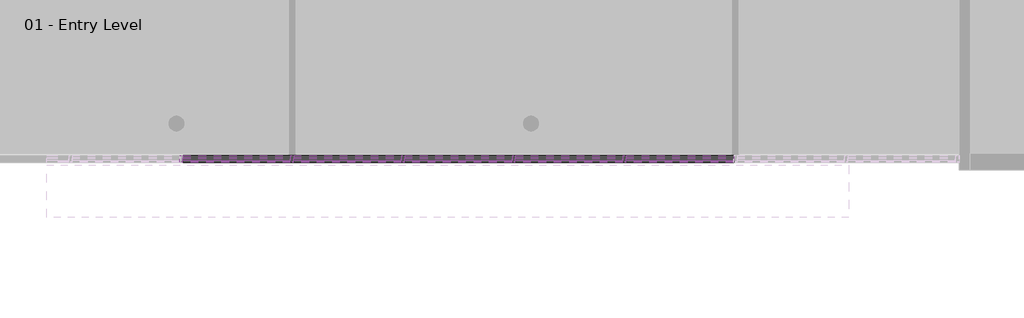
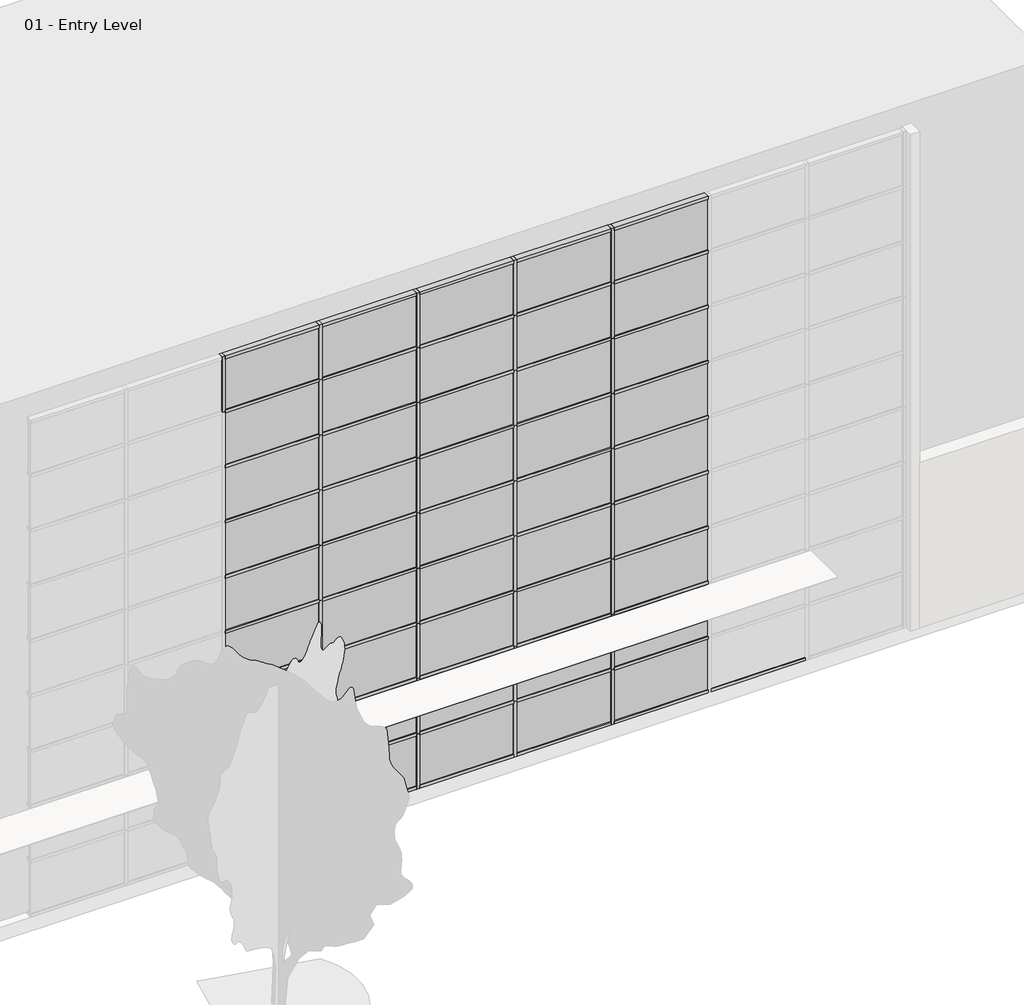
# One storey, part 5 of 34: 87 members, 45 plates.
"""IFC4 building model written with IfcOpenShell, lengths in millimetres."""

import ifcopenshell
import ifcopenshell.guid

model = None  # the IFC model being written
_history = None  # IfcOwnerHistory: only IFC2X3 demands one
_inside = {}  # id of a spatial element -> (the spatial element, [elements in it])
_under = {}  # id of a project, library or spatial element -> (it, [spatial elements below it])
_declared = {}  # id of a project -> (the project, [libraries it declares])
_typed = {}  # id of a type object -> (the type object, [elements of that type])
_made_of = {}  # id of a material, layer set ... -> (it, [elements and type objects made of it])


def new_model(schema):
    """Start an empty IFC model of exactly this schema.

    Asked for "IFC4X3", IfcOpenShell would pick the latest addendum, in which some entities
    have other attributes; the version numbers below select the first issue.
    IFC2X3 requires an IfcOwnerHistory on every rooted entity: one is made here for all.
    """
    global model, _history
    if schema == "IFC4X3":
        model = ifcopenshell.file(schema_version=(4, 3, 0, 0))
    else:
        model = ifcopenshell.file(schema=schema)
    _inside.clear()
    _under.clear()
    _declared.clear()
    _typed.clear()
    _made_of.clear()
    _history = None
    if model.schema == "IFC2X3":
        org = make("IfcOrganization", Name="unknown")
        user = make(
            "IfcPersonAndOrganization",
            ThePerson=make("IfcPerson", FamilyName="unknown"),
            TheOrganization=org,
        )
        app = make(
            "IfcApplication",
            ApplicationDeveloper=org,
            Version="unknown",
            ApplicationFullName="unknown",
            ApplicationIdentifier="unknown",
        )
        _history = make(
            "IfcOwnerHistory",
            OwningUser=user,
            OwningApplication=app,
            ChangeAction="ADDED",
            CreationDate=0,
        )
    return model


def make(cls, **values):
    """One entity of the class cls with the attributes given. An attribute that is None is left unset."""
    return model.create_entity(
        cls, **{name: value for name, value in values.items() if value is not None}
    )


def rooted(cls, **values):
    """An entity with a GlobalId (a new one), such as an element, a storey or a relation."""
    return make(cls, GlobalId=ifcopenshell.guid.new(), OwnerHistory=_history, **values)


def si_unit(unit_type, name, prefix=None):
    """IfcSIUnit, for example si_unit("LENGTHUNIT", "METRE", prefix="MILLI")."""
    return make("IfcSIUnit", UnitType=unit_type, Prefix=prefix, Name=name)


def assignment(units):
    """IfcUnitAssignment: the units of a project."""
    return None if units is None else make("IfcUnitAssignment", Units=units)


def point(xyz):
    """IfcCartesianPoint."""
    return None if xyz is None else make("IfcCartesianPoint", Coordinates=xyz)


def direction(xyz):
    """IfcDirection."""
    return None if xyz is None else make("IfcDirection", DirectionRatios=xyz)


def frame(location, z_axis=None, x_axis=None):
    """IfcAxis2Placement3D, a coordinate frame: its origin and axes. An axis left out is left unset."""
    return make(
        "IfcAxis2Placement3D",
        Location=point(location),
        Axis=direction(z_axis),
        RefDirection=direction(x_axis),
    )


def origin():
    """The frame at (0, 0, 0) with its axes left unset."""
    return frame((0.0, 0.0, 0.0))


def origin_with_axes():
    """The frame at (0, 0, 0) with the z axis (0, 0, 1) and the x axis (1, 0, 0) written out."""
    return frame((0.0, 0.0, 0.0), z_axis=(0.0, 0.0, 1.0), x_axis=(1.0, 0.0, 0.0))


def place(relative_to, where):
    """IfcLocalPlacement: puts the frame where relative to a parent placement (None: the world)."""
    return make(
        "IfcLocalPlacement", PlacementRelTo=relative_to, RelativePlacement=where
    )


def context(
    kind, dimensions, precision=None, world=None, true_north=None, identifier=None
):
    """IfcGeometricRepresentationContext, for example the 3D "Model" context."""
    return make(
        "IfcGeometricRepresentationContext",
        ContextIdentifier=identifier,
        ContextType=kind,
        CoordinateSpaceDimension=dimensions,
        Precision=precision,
        WorldCoordinateSystem=world,
        TrueNorth=true_north,
    )


def project(units=None, contexts=None):
    """IfcProject with its units and contexts."""
    return rooted(
        "IfcProject",
        Name="project",
        RepresentationContexts=contexts,
        UnitsInContext=assignment(units),
    )


def spatial(cls, under=None, at=None, **own):
    """A site, building, storey or space (cls), placed at a placement, below another one or the project."""
    s = rooted(cls, ObjectPlacement=at, **own)
    if under is not None:
        _under.setdefault(under.id(), (under, []))[1].append(s)
    return s


def polyline(points):
    """IfcPolyline through the points."""
    return make("IfcPolyline", Points=[point(p) for p in points])


def outline(outer, holes=None, kind="AREA"):
    """IfcArbitraryClosedProfileDef: a profile drawn as a closed curve; with holes, ...WithVoids."""
    if holes is None:
        return make("IfcArbitraryClosedProfileDef", ProfileType=kind, OuterCurve=outer)
    return make(
        "IfcArbitraryProfileDefWithVoids",
        ProfileType=kind,
        OuterCurve=outer,
        InnerCurves=holes,
    )


def extrude(swept, where, along, depth):
    """IfcExtrudedAreaSolid: the profile swept, set in the frame where, extruded along a direction by depth."""
    return make(
        "IfcExtrudedAreaSolid",
        SweptArea=swept,
        Position=where,
        ExtrudedDirection=direction(along),
        Depth=depth,
    )


def shape(context_of_items, identifier, shape_type, items):
    """IfcShapeRepresentation: the items that make up one representation, for example the "Body"."""
    return make(
        "IfcShapeRepresentation",
        ContextOfItems=context_of_items,
        RepresentationIdentifier=identifier,
        RepresentationType=shape_type,
        Items=items,
    )


def source(mapping_origin, context_of_items, identifier, shape_type, items):
    """IfcRepresentationMap: a shape defined once, which mapped items show again and again."""
    return make(
        "IfcRepresentationMap",
        MappingOrigin=mapping_origin,
        MappedRepresentation=shape(context_of_items, identifier, shape_type, items),
    )


def transform(
    local_origin,
    x_axis=None,
    y_axis=None,
    z_axis=None,
    scale=None,
    scale2=None,
    scale3=None,
    uniform=True,
):
    """IfcCartesianTransformationOperator3D, or its non-uniform kind. x_axis, y_axis, z_axis: its Axis1, 2, 3."""
    if uniform:
        return make(
            "IfcCartesianTransformationOperator3D",
            Axis1=direction(x_axis),
            Axis2=direction(y_axis),
            LocalOrigin=point(local_origin),
            Scale=scale,
            Axis3=direction(z_axis),
        )
    return make(
        "IfcCartesianTransformationOperator3DnonUniform",
        Axis1=direction(x_axis),
        Axis2=direction(y_axis),
        LocalOrigin=point(local_origin),
        Scale=scale,
        Axis3=direction(z_axis),
        Scale2=scale2,
        Scale3=scale3,
    )


def mapped(mapping_source, mapping_target):
    """IfcMappedItem: shows the shape of a source again, moved by a transform."""
    return make(
        "IfcMappedItem", MappingSource=mapping_source, MappingTarget=mapping_target
    )


def made_of(thing, what):
    """Note that an element or type object is made of a material, layer set ...; save() writes the relation."""
    if what is not None:
        _made_of.setdefault(what.id(), (what, []))[1].append(thing)
    return thing


def element(
    cls,
    number,
    at=None,
    inside=None,
    cuts=None,
    type_object=None,
    material=None,
    context=None,
    identifier="Body",
    shape_type=None,
    held_by="IfcProductDefinitionShape",
    body=None,
    shapes=None,
    **own,
):
    """One element of the class cls, such as IfcWall. Its Tag is "e" and its number.

    at: its placement. inside: the storey or other place that contains it. cuts: it is an
    opening in that element (IfcRelVoidsElement). A single representation is given by context,
    identifier, shape_type and body (its items); several are given by shapes. held_by: the class
    of the entity that holds the representations. save() writes the other relations.
    """
    e = rooted(cls, Tag="e%d" % number, ObjectPlacement=at, **own)
    if body is not None:
        shapes = [shape(context, identifier, shape_type, body)]
    if shapes is not None:
        e.Representation = make(held_by, Representations=shapes)
    if inside is not None:
        _inside.setdefault(inside.id(), (inside, []))[1].append(e)
    if cuts is not None:
        rooted(
            "IfcRelVoidsElement", RelatingBuildingElement=cuts, RelatedOpeningElement=e
        )
    if type_object is not None:
        _typed.setdefault(type_object.id(), (type_object, []))[1].append(e)
    return made_of(e, material)


def aggregate(whole, parts):
    """IfcRelAggregates: a whole, such as a stair, and the parts it consists of."""
    return rooted("IfcRelAggregates", RelatingObject=whole, RelatedObjects=parts)


def save(model, path):
    """Write the relations noted so far, then the file.

    IfcRelAggregates (storeys below a building ...), IfcRelContainedInSpatialStructure (elements
    in a storey), IfcRelDefinesByType, IfcRelAssociatesMaterial and IfcRelDeclares: one each for
    every whole, place, type object, material and project.
    """
    for whole, parts in _under.values():
        aggregate(whole, parts)
    for where, things in _inside.values():
        rooted(
            "IfcRelContainedInSpatialStructure",
            RelatedElements=things,
            RelatingStructure=where,
        )
    for kind, things in _typed.values():
        rooted("IfcRelDefinesByType", RelatedObjects=things, RelatingType=kind)
    for what, things in _made_of.values():
        rooted("IfcRelAssociatesMaterial", RelatedObjects=things, RelatingMaterial=what)
    for by, libraries in _declared.values():
        rooted("IfcRelDeclares", RelatingContext=by, RelatedDefinitions=libraries)
    model.write(path)


def member_2b49869a(model_context):
    return source(origin(), model_context, "Body", "SweptSolid", [
        extrude(outline(polyline([(31.75, 63.5), (31.75, -63.5), (-31.75, -63.5), (-31.75, 63.5), (31.75, 63.5)])), frame((0.0, 0.0, -1219.2), z_axis=(0.0, 0.0, 1.0), x_axis=(1.0, 0.0, 0.0)), (0.0, 0.0, 1.0), 1219.2),
    ])


def member_391b434c(model_context):
    return source(origin(), model_context, "Body", "SweptSolid", [
        extrude(outline(polyline([(0.0, 63.5), (0.0, -63.5), (-63.5, -63.5), (-63.5, 63.5), (0.0, 63.5)])), frame((0.0, 0.0, -1968.5), z_axis=(0.0, 0.0, 1.0), x_axis=(1.0, 0.0, 0.0)), (0.0, 0.0, 1.0), 1968.5),
    ])


def member_9e90ae50(model_context):
    return source(origin(), model_context, "Body", "SweptSolid", [
        extrude(outline(polyline([(31.75, 63.5), (31.75, -63.5), (-31.75, -63.5), (-31.75, 63.5), (31.75, 63.5)])), frame((0.0, 0.0, -1968.5), z_axis=(0.0, 0.0, 1.0), x_axis=(1.0, 0.0, 0.0)), (0.0, 0.0, 1.0), 1968.5),
    ])


def system_panel_glazed_1b9d6098(model_context):
    return source(origin(), model_context, "Body", "SweptSolid", [
        extrude(outline(polyline([(984.25, -44.45), (-984.25, -44.45), (-984.25, -19.05), (984.25, -19.05), (984.25, -44.45)])), origin_with_axes(), (0.0, 0.0, 1.0), 1123.95),
    ])


def system_panel_glazed_70da479d(model_context):
    return source(origin(), model_context, "Body", "SweptSolid", [
        extrude(outline(polyline([(984.25, -44.45), (-984.25, -44.45), (-984.25, -19.05), (984.25, -19.05), (984.25, -44.45)])), origin_with_axes(), (0.0, 0.0, 1.0), 1155.7),
    ])


def system_panel_solid_b376696c(model_context):
    return source(origin(), model_context, "Body", "SweptSolid", [
        extrude(outline(polyline([(984.25, -44.45), (-984.25, -44.45), (-984.25, 19.05), (984.25, 19.05), (984.25, -44.45)])), origin_with_axes(), (0.0, 0.0, 1.0), 1123.95),
    ])


def system_panel_solid_77e8b053(model_context):
    return source(origin(), model_context, "Body", "SweptSolid", [
        extrude(outline(polyline([(984.25, -44.45), (-984.25, -44.45), (-984.25, 19.05), (984.25, 19.05), (984.25, -44.45)])), origin_with_axes(), (0.0, 0.0, 1.0), 1155.7),
    ])


model = new_model("IFC4")

# Units and contexts
model_context = context("Model", 3, world=origin())
ifc_project = project(units=[si_unit("LENGTHUNIT", "METRE", prefix="MILLI")], contexts=[model_context])

# Site, building, storey
site = spatial("IfcSite", under=ifc_project)
building = spatial("IfcBuilding", under=site)
storey = spatial("IfcBuildingStorey", under=building, Name="01 - Entry Level", Elevation=0.0)

# Members
placement = place(None, origin())
member_shape = member_2b49869a(model_context)
element("IfcMember", 1, ObjectType="Rectangular Mullion : 2.5\" x 5\" rectangular", at=placement, inside=storey, context=model_context, shape_type="MappedRepresentation", body=[
    mapped(member_shape, transform((48883.2207476, -47.7, 9753.6), x_axis=(1.0, 0.0, 0.0), y_axis=(0.0, -1.0, 0.0), z_axis=(0.0, 0.0, -1.0))),
])
element("IfcMember", 2, ObjectType="Rectangular Mullion : 2.5\" x 5\" rectangular", at=placement, inside=storey, context=model_context, shape_type="MappedRepresentation", body=[
    mapped(member_shape, transform((50915.2207476, -47.7, 9753.6), x_axis=(1.0, 0.0, 0.0), y_axis=(0.0, -1.0, 0.0), z_axis=(0.0, 0.0, -1.0))),
])
element("IfcMember", 3, ObjectType="Rectangular Mullion : 2.5\" x 5\" rectangular", at=placement, inside=storey, context=model_context, shape_type="MappedRepresentation", body=[
    mapped(member_shape, transform((52947.2207476, -47.7, 9753.6), x_axis=(1.0, 0.0, 0.0), y_axis=(0.0, -1.0, 0.0), z_axis=(0.0, 0.0, -1.0))),
])
element("IfcMember", 4, ObjectType="Rectangular Mullion : 2.5\" x 5\" rectangular", at=placement, inside=storey, context=model_context, shape_type="MappedRepresentation", body=[
    mapped(member_shape, transform((54979.2207476, -47.7, 9753.6), x_axis=(1.0, 0.0, 0.0), y_axis=(0.0, -1.0, 0.0), z_axis=(0.0, 0.0, -1.0))),
])
element("IfcMember", 5, ObjectType="Rectangular Mullion : 2.5\" x 5\" rectangular", at=placement, inside=storey, context=model_context, shape_type="MappedRepresentation", body=[
    mapped(member_shape, transform((57011.2207476, -47.7, 9753.6), x_axis=(1.0, 0.0, 0.0), y_axis=(0.0, -1.0, 0.0), z_axis=(0.0, 0.0, -1.0))),
])
member_2_shape = member_391b434c(model_context)
element("IfcMember", 6, ObjectType="Rectangular Mullion : 2.5\" x 5\" rectangular", at=placement, inside=storey, context=model_context, shape_type="MappedRepresentation", body=[
    mapped(member_2_shape, transform((50883.4707476, -47.7, 10972.8), x_axis=(0.0, 0.0, 1.0), y_axis=(0.0, -1.0, 0.0), z_axis=(1.0, 0.0, 0.0))),
])
element("IfcMember", 7, ObjectType="Rectangular Mullion : 2.5\" x 5\" rectangular", at=placement, inside=storey, context=model_context, shape_type="MappedRepresentation", body=[
    mapped(member_2_shape, transform((52915.4707476, -47.7, 10972.8), x_axis=(0.0, 0.0, 1.0), y_axis=(0.0, -1.0, 0.0), z_axis=(1.0, 0.0, 0.0))),
])
element("IfcMember", 8, ObjectType="Rectangular Mullion : 2.5\" x 5\" rectangular", at=placement, inside=storey, context=model_context, shape_type="MappedRepresentation", body=[
    mapped(member_2_shape, transform((54947.4707476, -47.7, 10972.8), x_axis=(0.0, 0.0, 1.0), y_axis=(0.0, -1.0, 0.0), z_axis=(1.0, 0.0, 0.0))),
])
element("IfcMember", 9, ObjectType="Rectangular Mullion : 2.5\" x 5\" rectangular", at=placement, inside=storey, context=model_context, shape_type="MappedRepresentation", body=[
    mapped(member_2_shape, transform((56979.4707476, -47.7, 10972.8), x_axis=(0.0, 0.0, 1.0), y_axis=(0.0, -1.0, 0.0), z_axis=(1.0, 0.0, 0.0))),
])
element("IfcMember", 10, ObjectType="Rectangular Mullion : 2.5\" x 5\" rectangular", at=placement, inside=storey, context=model_context, shape_type="MappedRepresentation", body=[
    mapped(member_2_shape, transform((59011.4707476, -47.7, 10972.8), x_axis=(0.0, 0.0, 1.0), y_axis=(0.0, -1.0, 0.0), z_axis=(1.0, 0.0, 0.0))),
])
element("IfcMember", 11, ObjectType="Rectangular Mullion : 2.5\" x 5\" rectangular", at=placement, inside=storey, context=model_context, shape_type="MappedRepresentation", body=[
    mapped(member_2_shape, transform((50946.9707476, -47.7, 0.0), x_axis=(0.0, 0.0, -1.0), y_axis=(0.0, -1.0, 0.0), z_axis=(-1.0, 0.0, 0.0))),
])
element("IfcMember", 12, ObjectType="Rectangular Mullion : 2.5\" x 5\" rectangular", at=placement, inside=storey, context=model_context, shape_type="MappedRepresentation", body=[
    mapped(member_2_shape, transform((52978.9707476, -47.7, 0.0), x_axis=(0.0, 0.0, -1.0), y_axis=(0.0, -1.0, 0.0), z_axis=(-1.0, 0.0, 0.0))),
])
element("IfcMember", 13, ObjectType="Rectangular Mullion : 2.5\" x 5\" rectangular", at=placement, inside=storey, context=model_context, shape_type="MappedRepresentation", body=[
    mapped(member_2_shape, transform((55010.9707476, -47.7, 0.0), x_axis=(0.0, 0.0, -1.0), y_axis=(0.0, -1.0, 0.0), z_axis=(-1.0, 0.0, 0.0))),
])
element("IfcMember", 14, ObjectType="Rectangular Mullion : 2.5\" x 5\" rectangular", at=placement, inside=storey, context=model_context, shape_type="MappedRepresentation", body=[
    mapped(member_2_shape, transform((57042.9707476, -47.7, 0.0), x_axis=(0.0, 0.0, -1.0), y_axis=(0.0, -1.0, 0.0), z_axis=(-1.0, 0.0, 0.0))),
])
element("IfcMember", 15, ObjectType="Rectangular Mullion : 2.5\" x 5\" rectangular", at=placement, inside=storey, context=model_context, shape_type="MappedRepresentation", body=[
    mapped(member_2_shape, transform((59074.9707476, -47.7, 0.0), x_axis=(0.0, 0.0, -1.0), y_axis=(0.0, -1.0, 0.0), z_axis=(-1.0, 0.0, 0.0))),
])
member_3_shape = member_9e90ae50(model_context)
element("IfcMember", 16, ObjectType="Rectangular Mullion : 2.5\" x 5\" rectangular", at=placement, inside=storey, context=model_context, shape_type="MappedRepresentation", body=[
    mapped(member_3_shape, transform((50883.4707476, -47.7, 1219.2), x_axis=(0.0, 0.0, 1.0), y_axis=(0.0, -1.0, 0.0), z_axis=(1.0, 0.0, 0.0))),
])
element("IfcMember", 17, ObjectType="Rectangular Mullion : 2.5\" x 5\" rectangular", at=placement, inside=storey, context=model_context, shape_type="MappedRepresentation", body=[
    mapped(member_3_shape, transform((52915.4707476, -47.7, 1219.2), x_axis=(0.0, 0.0, 1.0), y_axis=(0.0, -1.0, 0.0), z_axis=(1.0, 0.0, 0.0))),
])
element("IfcMember", 18, ObjectType="Rectangular Mullion : 2.5\" x 5\" rectangular", at=placement, inside=storey, context=model_context, shape_type="MappedRepresentation", body=[
    mapped(member_3_shape, transform((54947.4707476, -47.7, 1219.2), x_axis=(0.0, 0.0, 1.0), y_axis=(0.0, -1.0, 0.0), z_axis=(1.0, 0.0, 0.0))),
])
element("IfcMember", 19, ObjectType="Rectangular Mullion : 2.5\" x 5\" rectangular", at=placement, inside=storey, context=model_context, shape_type="MappedRepresentation", body=[
    mapped(member_3_shape, transform((56979.4707476, -47.7, 1219.2), x_axis=(0.0, 0.0, 1.0), y_axis=(0.0, -1.0, 0.0), z_axis=(1.0, 0.0, 0.0))),
])
element("IfcMember", 20, ObjectType="Rectangular Mullion : 2.5\" x 5\" rectangular", at=placement, inside=storey, context=model_context, shape_type="MappedRepresentation", body=[
    mapped(member_3_shape, transform((59011.4707476, -47.7, 1219.2), x_axis=(0.0, 0.0, 1.0), y_axis=(0.0, -1.0, 0.0), z_axis=(1.0, 0.0, 0.0))),
])
element("IfcMember", 21, ObjectType="Rectangular Mullion : 2.5\" x 5\" rectangular", at=placement, inside=storey, context=model_context, shape_type="MappedRepresentation", body=[
    mapped(member_3_shape, transform((50883.4707476, -47.7, 2438.4), x_axis=(0.0, 0.0, 1.0), y_axis=(0.0, -1.0, 0.0), z_axis=(1.0, 0.0, 0.0))),
])
element("IfcMember", 22, ObjectType="Rectangular Mullion : 2.5\" x 5\" rectangular", at=placement, inside=storey, context=model_context, shape_type="MappedRepresentation", body=[
    mapped(member_3_shape, transform((52915.4707476, -47.7, 2438.4), x_axis=(0.0, 0.0, 1.0), y_axis=(0.0, -1.0, 0.0), z_axis=(1.0, 0.0, 0.0))),
])
element("IfcMember", 23, ObjectType="Rectangular Mullion : 2.5\" x 5\" rectangular", at=placement, inside=storey, context=model_context, shape_type="MappedRepresentation", body=[
    mapped(member_3_shape, transform((54947.4707476, -47.7, 2438.4), x_axis=(0.0, 0.0, 1.0), y_axis=(0.0, -1.0, 0.0), z_axis=(1.0, 0.0, 0.0))),
])
element("IfcMember", 24, ObjectType="Rectangular Mullion : 2.5\" x 5\" rectangular", at=placement, inside=storey, context=model_context, shape_type="MappedRepresentation", body=[
    mapped(member_3_shape, transform((56979.4707476, -47.7, 2438.4), x_axis=(0.0, 0.0, 1.0), y_axis=(0.0, -1.0, 0.0), z_axis=(1.0, 0.0, 0.0))),
])
element("IfcMember", 25, ObjectType="Rectangular Mullion : 2.5\" x 5\" rectangular", at=placement, inside=storey, context=model_context, shape_type="MappedRepresentation", body=[
    mapped(member_3_shape, transform((59011.4707476, -47.7, 2438.4), x_axis=(0.0, 0.0, 1.0), y_axis=(0.0, -1.0, 0.0), z_axis=(1.0, 0.0, 0.0))),
])
element("IfcMember", 26, ObjectType="Rectangular Mullion : 2.5\" x 5\" rectangular", at=placement, inside=storey, context=model_context, shape_type="MappedRepresentation", body=[
    mapped(member_3_shape, transform((50883.4707476, -47.7, 3657.6), x_axis=(0.0, 0.0, 1.0), y_axis=(0.0, -1.0, 0.0), z_axis=(1.0, 0.0, 0.0))),
])
element("IfcMember", 27, ObjectType="Rectangular Mullion : 2.5\" x 5\" rectangular", at=placement, inside=storey, context=model_context, shape_type="MappedRepresentation", body=[
    mapped(member_3_shape, transform((52915.4707476, -47.7, 3657.6), x_axis=(0.0, 0.0, 1.0), y_axis=(0.0, -1.0, 0.0), z_axis=(1.0, 0.0, 0.0))),
])
element("IfcMember", 28, ObjectType="Rectangular Mullion : 2.5\" x 5\" rectangular", at=placement, inside=storey, context=model_context, shape_type="MappedRepresentation", body=[
    mapped(member_3_shape, transform((54947.4707476, -47.7, 3657.6), x_axis=(0.0, 0.0, 1.0), y_axis=(0.0, -1.0, 0.0), z_axis=(1.0, 0.0, 0.0))),
])
element("IfcMember", 29, ObjectType="Rectangular Mullion : 2.5\" x 5\" rectangular", at=placement, inside=storey, context=model_context, shape_type="MappedRepresentation", body=[
    mapped(member_3_shape, transform((56979.4707476, -47.7, 3657.6), x_axis=(0.0, 0.0, 1.0), y_axis=(0.0, -1.0, 0.0), z_axis=(1.0, 0.0, 0.0))),
])
element("IfcMember", 30, ObjectType="Rectangular Mullion : 2.5\" x 5\" rectangular", at=placement, inside=storey, context=model_context, shape_type="MappedRepresentation", body=[
    mapped(member_3_shape, transform((59011.4707476, -47.7, 3657.6), x_axis=(0.0, 0.0, 1.0), y_axis=(0.0, -1.0, 0.0), z_axis=(1.0, 0.0, 0.0))),
])
element("IfcMember", 31, ObjectType="Rectangular Mullion : 2.5\" x 5\" rectangular", at=placement, inside=storey, context=model_context, shape_type="MappedRepresentation", body=[
    mapped(member_3_shape, transform((50883.4707476, -47.7, 4876.8), x_axis=(0.0, 0.0, 1.0), y_axis=(0.0, -1.0, 0.0), z_axis=(1.0, 0.0, 0.0))),
])
element("IfcMember", 32, ObjectType="Rectangular Mullion : 2.5\" x 5\" rectangular", at=placement, inside=storey, context=model_context, shape_type="MappedRepresentation", body=[
    mapped(member_3_shape, transform((52915.4707476, -47.7, 4876.8), x_axis=(0.0, 0.0, 1.0), y_axis=(0.0, -1.0, 0.0), z_axis=(1.0, 0.0, 0.0))),
])
element("IfcMember", 33, ObjectType="Rectangular Mullion : 2.5\" x 5\" rectangular", at=placement, inside=storey, context=model_context, shape_type="MappedRepresentation", body=[
    mapped(member_3_shape, transform((54947.4707476, -47.7, 4876.8), x_axis=(0.0, 0.0, 1.0), y_axis=(0.0, -1.0, 0.0), z_axis=(1.0, 0.0, 0.0))),
])
element("IfcMember", 34, ObjectType="Rectangular Mullion : 2.5\" x 5\" rectangular", at=placement, inside=storey, context=model_context, shape_type="MappedRepresentation", body=[
    mapped(member_3_shape, transform((56979.4707476, -47.7, 4876.8), x_axis=(0.0, 0.0, 1.0), y_axis=(0.0, -1.0, 0.0), z_axis=(1.0, 0.0, 0.0))),
])
element("IfcMember", 35, ObjectType="Rectangular Mullion : 2.5\" x 5\" rectangular", at=placement, inside=storey, context=model_context, shape_type="MappedRepresentation", body=[
    mapped(member_3_shape, transform((59011.4707476, -47.7, 4876.8), x_axis=(0.0, 0.0, 1.0), y_axis=(0.0, -1.0, 0.0), z_axis=(1.0, 0.0, 0.0))),
])
element("IfcMember", 36, ObjectType="Rectangular Mullion : 2.5\" x 5\" rectangular", at=placement, inside=storey, context=model_context, shape_type="MappedRepresentation", body=[
    mapped(member_3_shape, transform((50883.4707476, -47.7, 6096.0), x_axis=(0.0, 0.0, 1.0), y_axis=(0.0, -1.0, 0.0), z_axis=(1.0, 0.0, 0.0))),
])
element("IfcMember", 37, ObjectType="Rectangular Mullion : 2.5\" x 5\" rectangular", at=placement, inside=storey, context=model_context, shape_type="MappedRepresentation", body=[
    mapped(member_3_shape, transform((52915.4707476, -47.7, 6096.0), x_axis=(0.0, 0.0, 1.0), y_axis=(0.0, -1.0, 0.0), z_axis=(1.0, 0.0, 0.0))),
])
element("IfcMember", 38, ObjectType="Rectangular Mullion : 2.5\" x 5\" rectangular", at=placement, inside=storey, context=model_context, shape_type="MappedRepresentation", body=[
    mapped(member_3_shape, transform((54947.4707476, -47.7, 6096.0), x_axis=(0.0, 0.0, 1.0), y_axis=(0.0, -1.0, 0.0), z_axis=(1.0, 0.0, 0.0))),
])
element("IfcMember", 39, ObjectType="Rectangular Mullion : 2.5\" x 5\" rectangular", at=placement, inside=storey, context=model_context, shape_type="MappedRepresentation", body=[
    mapped(member_3_shape, transform((56979.4707476, -47.7, 6096.0), x_axis=(0.0, 0.0, 1.0), y_axis=(0.0, -1.0, 0.0), z_axis=(1.0, 0.0, 0.0))),
])
element("IfcMember", 40, ObjectType="Rectangular Mullion : 2.5\" x 5\" rectangular", at=placement, inside=storey, context=model_context, shape_type="MappedRepresentation", body=[
    mapped(member_3_shape, transform((59011.4707476, -47.7, 6096.0), x_axis=(0.0, 0.0, 1.0), y_axis=(0.0, -1.0, 0.0), z_axis=(1.0, 0.0, 0.0))),
])
element("IfcMember", 41, ObjectType="Rectangular Mullion : 2.5\" x 5\" rectangular", at=placement, inside=storey, context=model_context, shape_type="MappedRepresentation", body=[
    mapped(member_3_shape, transform((50883.4707476, -47.7, 7315.2), x_axis=(0.0, 0.0, 1.0), y_axis=(0.0, -1.0, 0.0), z_axis=(1.0, 0.0, 0.0))),
])
element("IfcMember", 42, ObjectType="Rectangular Mullion : 2.5\" x 5\" rectangular", at=placement, inside=storey, context=model_context, shape_type="MappedRepresentation", body=[
    mapped(member_3_shape, transform((52915.4707476, -47.7, 7315.2), x_axis=(0.0, 0.0, 1.0), y_axis=(0.0, -1.0, 0.0), z_axis=(1.0, 0.0, 0.0))),
])
element("IfcMember", 43, ObjectType="Rectangular Mullion : 2.5\" x 5\" rectangular", at=placement, inside=storey, context=model_context, shape_type="MappedRepresentation", body=[
    mapped(member_3_shape, transform((54947.4707476, -47.7, 7315.2), x_axis=(0.0, 0.0, 1.0), y_axis=(0.0, -1.0, 0.0), z_axis=(1.0, 0.0, 0.0))),
])
element("IfcMember", 44, ObjectType="Rectangular Mullion : 2.5\" x 5\" rectangular", at=placement, inside=storey, context=model_context, shape_type="MappedRepresentation", body=[
    mapped(member_3_shape, transform((56979.4707476, -47.7, 7315.2), x_axis=(0.0, 0.0, 1.0), y_axis=(0.0, -1.0, 0.0), z_axis=(1.0, 0.0, 0.0))),
])
element("IfcMember", 45, ObjectType="Rectangular Mullion : 2.5\" x 5\" rectangular", at=placement, inside=storey, context=model_context, shape_type="MappedRepresentation", body=[
    mapped(member_3_shape, transform((59011.4707476, -47.7, 7315.2), x_axis=(0.0, 0.0, 1.0), y_axis=(0.0, -1.0, 0.0), z_axis=(1.0, 0.0, 0.0))),
])
element("IfcMember", 46, ObjectType="Rectangular Mullion : 2.5\" x 5\" rectangular", at=placement, inside=storey, context=model_context, shape_type="MappedRepresentation", body=[
    mapped(member_3_shape, transform((50883.4707476, -47.7, 8534.4), x_axis=(0.0, 0.0, 1.0), y_axis=(0.0, -1.0, 0.0), z_axis=(1.0, 0.0, 0.0))),
])
element("IfcMember", 47, ObjectType="Rectangular Mullion : 2.5\" x 5\" rectangular", at=placement, inside=storey, context=model_context, shape_type="MappedRepresentation", body=[
    mapped(member_3_shape, transform((52915.4707476, -47.7, 8534.4), x_axis=(0.0, 0.0, 1.0), y_axis=(0.0, -1.0, 0.0), z_axis=(1.0, 0.0, 0.0))),
])
element("IfcMember", 48, ObjectType="Rectangular Mullion : 2.5\" x 5\" rectangular", at=placement, inside=storey, context=model_context, shape_type="MappedRepresentation", body=[
    mapped(member_3_shape, transform((54947.4707476, -47.7, 8534.4), x_axis=(0.0, 0.0, 1.0), y_axis=(0.0, -1.0, 0.0), z_axis=(1.0, 0.0, 0.0))),
])
element("IfcMember", 49, ObjectType="Rectangular Mullion : 2.5\" x 5\" rectangular", at=placement, inside=storey, context=model_context, shape_type="MappedRepresentation", body=[
    mapped(member_3_shape, transform((56979.4707476, -47.7, 8534.4), x_axis=(0.0, 0.0, 1.0), y_axis=(0.0, -1.0, 0.0), z_axis=(1.0, 0.0, 0.0))),
])
element("IfcMember", 50, ObjectType="Rectangular Mullion : 2.5\" x 5\" rectangular", at=placement, inside=storey, context=model_context, shape_type="MappedRepresentation", body=[
    mapped(member_3_shape, transform((59011.4707476, -47.7, 8534.4), x_axis=(0.0, 0.0, 1.0), y_axis=(0.0, -1.0, 0.0), z_axis=(1.0, 0.0, 0.0))),
])
element("IfcMember", 51, ObjectType="Rectangular Mullion : 2.5\" x 5\" rectangular", at=placement, inside=storey, context=model_context, shape_type="MappedRepresentation", body=[
    mapped(member_3_shape, transform((50883.4707476, -47.7, 9753.6), x_axis=(0.0, 0.0, 1.0), y_axis=(0.0, -1.0, 0.0), z_axis=(1.0, 0.0, 0.0))),
])
element("IfcMember", 52, ObjectType="Rectangular Mullion : 2.5\" x 5\" rectangular", at=placement, inside=storey, context=model_context, shape_type="MappedRepresentation", body=[
    mapped(member_3_shape, transform((52915.4707476, -47.7, 9753.6), x_axis=(0.0, 0.0, 1.0), y_axis=(0.0, -1.0, 0.0), z_axis=(1.0, 0.0, 0.0))),
])
element("IfcMember", 53, ObjectType="Rectangular Mullion : 2.5\" x 5\" rectangular", at=placement, inside=storey, context=model_context, shape_type="MappedRepresentation", body=[
    mapped(member_3_shape, transform((54947.4707476, -47.7, 9753.6), x_axis=(0.0, 0.0, 1.0), y_axis=(0.0, -1.0, 0.0), z_axis=(1.0, 0.0, 0.0))),
])
element("IfcMember", 54, ObjectType="Rectangular Mullion : 2.5\" x 5\" rectangular", at=placement, inside=storey, context=model_context, shape_type="MappedRepresentation", body=[
    mapped(member_3_shape, transform((56979.4707476, -47.7, 9753.6), x_axis=(0.0, 0.0, 1.0), y_axis=(0.0, -1.0, 0.0), z_axis=(1.0, 0.0, 0.0))),
])
element("IfcMember", 55, ObjectType="Rectangular Mullion : 2.5\" x 5\" rectangular", at=placement, inside=storey, context=model_context, shape_type="MappedRepresentation", body=[
    mapped(member_3_shape, transform((59011.4707476, -47.7, 9753.6), x_axis=(0.0, 0.0, 1.0), y_axis=(0.0, -1.0, 0.0), z_axis=(1.0, 0.0, 0.0))),
])
element("IfcMember", 56, ObjectType="Rectangular Mullion : 2.5\" x 5\" rectangular", at=placement, inside=storey, context=model_context, shape_type="MappedRepresentation", body=[
    mapped(member_shape, transform((50915.2207476, -47.7, 0.0), x_axis=(1.0, 0.0, 0.0), y_axis=(0.0, -1.0, 0.0), z_axis=(0.0, 0.0, -1.0))),
])
element("IfcMember", 57, ObjectType="Rectangular Mullion : 2.5\" x 5\" rectangular", at=placement, inside=storey, context=model_context, shape_type="MappedRepresentation", body=[
    mapped(member_shape, transform((52947.2207476, -47.7, 0.0), x_axis=(1.0, 0.0, 0.0), y_axis=(0.0, -1.0, 0.0), z_axis=(0.0, 0.0, -1.0))),
])
element("IfcMember", 58, ObjectType="Rectangular Mullion : 2.5\" x 5\" rectangular", at=placement, inside=storey, context=model_context, shape_type="MappedRepresentation", body=[
    mapped(member_shape, transform((54979.2207476, -47.7, 0.0), x_axis=(1.0, 0.0, 0.0), y_axis=(0.0, -1.0, 0.0), z_axis=(0.0, 0.0, -1.0))),
])
element("IfcMember", 59, ObjectType="Rectangular Mullion : 2.5\" x 5\" rectangular", at=placement, inside=storey, context=model_context, shape_type="MappedRepresentation", body=[
    mapped(member_shape, transform((57011.2207476, -47.7, 0.0), x_axis=(1.0, 0.0, 0.0), y_axis=(0.0, -1.0, 0.0), z_axis=(0.0, 0.0, -1.0))),
])
element("IfcMember", 60, ObjectType="Rectangular Mullion : 2.5\" x 5\" rectangular", at=placement, inside=storey, context=model_context, shape_type="MappedRepresentation", body=[
    mapped(member_shape, transform((50915.2207476, -47.7, 1219.2), x_axis=(1.0, 0.0, 0.0), y_axis=(0.0, -1.0, 0.0), z_axis=(0.0, 0.0, -1.0))),
])
element("IfcMember", 61, ObjectType="Rectangular Mullion : 2.5\" x 5\" rectangular", at=placement, inside=storey, context=model_context, shape_type="MappedRepresentation", body=[
    mapped(member_shape, transform((52947.2207476, -47.7, 1219.2), x_axis=(1.0, 0.0, 0.0), y_axis=(0.0, -1.0, 0.0), z_axis=(0.0, 0.0, -1.0))),
])
element("IfcMember", 62, ObjectType="Rectangular Mullion : 2.5\" x 5\" rectangular", at=placement, inside=storey, context=model_context, shape_type="MappedRepresentation", body=[
    mapped(member_shape, transform((54979.2207476, -47.7, 1219.2), x_axis=(1.0, 0.0, 0.0), y_axis=(0.0, -1.0, 0.0), z_axis=(0.0, 0.0, -1.0))),
])
element("IfcMember", 63, ObjectType="Rectangular Mullion : 2.5\" x 5\" rectangular", at=placement, inside=storey, context=model_context, shape_type="MappedRepresentation", body=[
    mapped(member_shape, transform((57011.2207476, -47.7, 1219.2), x_axis=(1.0, 0.0, 0.0), y_axis=(0.0, -1.0, 0.0), z_axis=(0.0, 0.0, -1.0))),
])
element("IfcMember", 64, ObjectType="Rectangular Mullion : 2.5\" x 5\" rectangular", at=placement, inside=storey, context=model_context, shape_type="MappedRepresentation", body=[
    mapped(member_shape, transform((50915.2207476, -47.7, 2438.4), x_axis=(1.0, 0.0, 0.0), y_axis=(0.0, -1.0, 0.0), z_axis=(0.0, 0.0, -1.0))),
])
element("IfcMember", 65, ObjectType="Rectangular Mullion : 2.5\" x 5\" rectangular", at=placement, inside=storey, context=model_context, shape_type="MappedRepresentation", body=[
    mapped(member_shape, transform((52947.2207476, -47.7, 2438.4), x_axis=(1.0, 0.0, 0.0), y_axis=(0.0, -1.0, 0.0), z_axis=(0.0, 0.0, -1.0))),
])
element("IfcMember", 66, ObjectType="Rectangular Mullion : 2.5\" x 5\" rectangular", at=placement, inside=storey, context=model_context, shape_type="MappedRepresentation", body=[
    mapped(member_shape, transform((54979.2207476, -47.7, 2438.4), x_axis=(1.0, 0.0, 0.0), y_axis=(0.0, -1.0, 0.0), z_axis=(0.0, 0.0, -1.0))),
])
element("IfcMember", 67, ObjectType="Rectangular Mullion : 2.5\" x 5\" rectangular", at=placement, inside=storey, context=model_context, shape_type="MappedRepresentation", body=[
    mapped(member_shape, transform((57011.2207476, -47.7, 2438.4), x_axis=(1.0, 0.0, 0.0), y_axis=(0.0, -1.0, 0.0), z_axis=(0.0, 0.0, -1.0))),
])
element("IfcMember", 68, ObjectType="Rectangular Mullion : 2.5\" x 5\" rectangular", at=placement, inside=storey, context=model_context, shape_type="MappedRepresentation", body=[
    mapped(member_shape, transform((50915.2207476, -47.7, 3657.6), x_axis=(1.0, 0.0, 0.0), y_axis=(0.0, -1.0, 0.0), z_axis=(0.0, 0.0, -1.0))),
])
element("IfcMember", 69, ObjectType="Rectangular Mullion : 2.5\" x 5\" rectangular", at=placement, inside=storey, context=model_context, shape_type="MappedRepresentation", body=[
    mapped(member_shape, transform((52947.2207476, -47.7, 3657.6), x_axis=(1.0, 0.0, 0.0), y_axis=(0.0, -1.0, 0.0), z_axis=(0.0, 0.0, -1.0))),
])
element("IfcMember", 70, ObjectType="Rectangular Mullion : 2.5\" x 5\" rectangular", at=placement, inside=storey, context=model_context, shape_type="MappedRepresentation", body=[
    mapped(member_shape, transform((54979.2207476, -47.7, 3657.6), x_axis=(1.0, 0.0, 0.0), y_axis=(0.0, -1.0, 0.0), z_axis=(0.0, 0.0, -1.0))),
])
element("IfcMember", 71, ObjectType="Rectangular Mullion : 2.5\" x 5\" rectangular", at=placement, inside=storey, context=model_context, shape_type="MappedRepresentation", body=[
    mapped(member_shape, transform((57011.2207476, -47.7, 3657.6), x_axis=(1.0, 0.0, 0.0), y_axis=(0.0, -1.0, 0.0), z_axis=(0.0, 0.0, -1.0))),
])
element("IfcMember", 72, ObjectType="Rectangular Mullion : 2.5\" x 5\" rectangular", at=placement, inside=storey, context=model_context, shape_type="MappedRepresentation", body=[
    mapped(member_shape, transform((50915.2207476, -47.7, 4876.8), x_axis=(1.0, 0.0, 0.0), y_axis=(0.0, -1.0, 0.0), z_axis=(0.0, 0.0, -1.0))),
])
element("IfcMember", 73, ObjectType="Rectangular Mullion : 2.5\" x 5\" rectangular", at=placement, inside=storey, context=model_context, shape_type="MappedRepresentation", body=[
    mapped(member_shape, transform((52947.2207476, -47.7, 4876.8), x_axis=(1.0, 0.0, 0.0), y_axis=(0.0, -1.0, 0.0), z_axis=(0.0, 0.0, -1.0))),
])
element("IfcMember", 74, ObjectType="Rectangular Mullion : 2.5\" x 5\" rectangular", at=placement, inside=storey, context=model_context, shape_type="MappedRepresentation", body=[
    mapped(member_shape, transform((54979.2207476, -47.7, 4876.8), x_axis=(1.0, 0.0, 0.0), y_axis=(0.0, -1.0, 0.0), z_axis=(0.0, 0.0, -1.0))),
])
element("IfcMember", 75, ObjectType="Rectangular Mullion : 2.5\" x 5\" rectangular", at=placement, inside=storey, context=model_context, shape_type="MappedRepresentation", body=[
    mapped(member_shape, transform((57011.2207476, -47.7, 4876.8), x_axis=(1.0, 0.0, 0.0), y_axis=(0.0, -1.0, 0.0), z_axis=(0.0, 0.0, -1.0))),
])
element("IfcMember", 76, ObjectType="Rectangular Mullion : 2.5\" x 5\" rectangular", at=placement, inside=storey, context=model_context, shape_type="MappedRepresentation", body=[
    mapped(member_shape, transform((50915.2207476, -47.7, 6096.0), x_axis=(1.0, 0.0, 0.0), y_axis=(0.0, -1.0, 0.0), z_axis=(0.0, 0.0, -1.0))),
])
element("IfcMember", 77, ObjectType="Rectangular Mullion : 2.5\" x 5\" rectangular", at=placement, inside=storey, context=model_context, shape_type="MappedRepresentation", body=[
    mapped(member_shape, transform((52947.2207476, -47.7, 6096.0), x_axis=(1.0, 0.0, 0.0), y_axis=(0.0, -1.0, 0.0), z_axis=(0.0, 0.0, -1.0))),
])
element("IfcMember", 78, ObjectType="Rectangular Mullion : 2.5\" x 5\" rectangular", at=placement, inside=storey, context=model_context, shape_type="MappedRepresentation", body=[
    mapped(member_shape, transform((54979.2207476, -47.7, 6096.0), x_axis=(1.0, 0.0, 0.0), y_axis=(0.0, -1.0, 0.0), z_axis=(0.0, 0.0, -1.0))),
])
element("IfcMember", 79, ObjectType="Rectangular Mullion : 2.5\" x 5\" rectangular", at=placement, inside=storey, context=model_context, shape_type="MappedRepresentation", body=[
    mapped(member_shape, transform((57011.2207476, -47.7, 6096.0), x_axis=(1.0, 0.0, 0.0), y_axis=(0.0, -1.0, 0.0), z_axis=(0.0, 0.0, -1.0))),
])
element("IfcMember", 80, ObjectType="Rectangular Mullion : 2.5\" x 5\" rectangular", at=placement, inside=storey, context=model_context, shape_type="MappedRepresentation", body=[
    mapped(member_shape, transform((50915.2207476, -47.7, 7315.2), x_axis=(1.0, 0.0, 0.0), y_axis=(0.0, -1.0, 0.0), z_axis=(0.0, 0.0, -1.0))),
])
element("IfcMember", 81, ObjectType="Rectangular Mullion : 2.5\" x 5\" rectangular", at=placement, inside=storey, context=model_context, shape_type="MappedRepresentation", body=[
    mapped(member_shape, transform((52947.2207476, -47.7, 7315.2), x_axis=(1.0, 0.0, 0.0), y_axis=(0.0, -1.0, 0.0), z_axis=(0.0, 0.0, -1.0))),
])
element("IfcMember", 82, ObjectType="Rectangular Mullion : 2.5\" x 5\" rectangular", at=placement, inside=storey, context=model_context, shape_type="MappedRepresentation", body=[
    mapped(member_shape, transform((54979.2207476, -47.7, 7315.2), x_axis=(1.0, 0.0, 0.0), y_axis=(0.0, -1.0, 0.0), z_axis=(0.0, 0.0, -1.0))),
])
element("IfcMember", 83, ObjectType="Rectangular Mullion : 2.5\" x 5\" rectangular", at=placement, inside=storey, context=model_context, shape_type="MappedRepresentation", body=[
    mapped(member_shape, transform((57011.2207476, -47.7, 7315.2), x_axis=(1.0, 0.0, 0.0), y_axis=(0.0, -1.0, 0.0), z_axis=(0.0, 0.0, -1.0))),
])
element("IfcMember", 84, ObjectType="Rectangular Mullion : 2.5\" x 5\" rectangular", at=placement, inside=storey, context=model_context, shape_type="MappedRepresentation", body=[
    mapped(member_shape, transform((50915.2207476, -47.7, 8534.4), x_axis=(1.0, 0.0, 0.0), y_axis=(0.0, -1.0, 0.0), z_axis=(0.0, 0.0, -1.0))),
])
element("IfcMember", 85, ObjectType="Rectangular Mullion : 2.5\" x 5\" rectangular", at=placement, inside=storey, context=model_context, shape_type="MappedRepresentation", body=[
    mapped(member_shape, transform((52947.2207476, -47.7, 8534.4), x_axis=(1.0, 0.0, 0.0), y_axis=(0.0, -1.0, 0.0), z_axis=(0.0, 0.0, -1.0))),
])
element("IfcMember", 86, ObjectType="Rectangular Mullion : 2.5\" x 5\" rectangular", at=placement, inside=storey, context=model_context, shape_type="MappedRepresentation", body=[
    mapped(member_shape, transform((54979.2207476, -47.7, 8534.4), x_axis=(1.0, 0.0, 0.0), y_axis=(0.0, -1.0, 0.0), z_axis=(0.0, 0.0, -1.0))),
])
element("IfcMember", 87, ObjectType="Rectangular Mullion : 2.5\" x 5\" rectangular", at=placement, inside=storey, context=model_context, shape_type="MappedRepresentation", body=[
    mapped(member_shape, transform((57011.2207476, -47.7, 8534.4), x_axis=(1.0, 0.0, 0.0), y_axis=(0.0, -1.0, 0.0), z_axis=(0.0, 0.0, -1.0))),
])

# Plates
system_panel_glazed_shape = system_panel_glazed_1b9d6098(model_context)
element("IfcPlate", 88, ObjectType="System Panel : Glazed", at=placement, inside=storey, context=model_context, shape_type="MappedRepresentation", body=[
    mapped(system_panel_glazed_shape, transform((49899.2207476, -47.7, 63.5), x_axis=(1.0, 0.0, 0.0), y_axis=(0.0, 1.0, 0.0), z_axis=(0.0, 0.0, 1.0))),
])
element("IfcPlate", 89, ObjectType="System Panel : Glazed", at=placement, inside=storey, context=model_context, shape_type="MappedRepresentation", body=[
    mapped(system_panel_glazed_shape, transform((51931.2207476, -47.7, 63.5), x_axis=(1.0, 0.0, 0.0), y_axis=(0.0, 1.0, 0.0), z_axis=(0.0, 0.0, 1.0))),
])
element("IfcPlate", 90, ObjectType="System Panel : Glazed", at=placement, inside=storey, context=model_context, shape_type="MappedRepresentation", body=[
    mapped(system_panel_glazed_shape, transform((53963.2207476, -47.7, 63.5), x_axis=(1.0, 0.0, 0.0), y_axis=(0.0, 1.0, 0.0), z_axis=(0.0, 0.0, 1.0))),
])
element("IfcPlate", 91, ObjectType="System Panel : Glazed", at=placement, inside=storey, context=model_context, shape_type="MappedRepresentation", body=[
    mapped(system_panel_glazed_shape, transform((55995.2207476, -47.7, 63.5), x_axis=(1.0, 0.0, 0.0), y_axis=(0.0, 1.0, 0.0), z_axis=(0.0, 0.0, 1.0))),
])
element("IfcPlate", 92, ObjectType="System Panel : Glazed", at=placement, inside=storey, context=model_context, shape_type="MappedRepresentation", body=[
    mapped(system_panel_glazed_shape, transform((58027.2207476, -47.7, 63.5), x_axis=(1.0, 0.0, 0.0), y_axis=(0.0, 1.0, 0.0), z_axis=(0.0, 0.0, 1.0))),
])
system_panel_glazed_2_shape = system_panel_glazed_70da479d(model_context)
element("IfcPlate", 93, ObjectType="System Panel : Glazed", at=placement, inside=storey, context=model_context, shape_type="MappedRepresentation", body=[
    mapped(system_panel_glazed_2_shape, transform((49899.2207476, -47.7, 1250.95), x_axis=(1.0, 0.0, 0.0), y_axis=(0.0, 1.0, 0.0), z_axis=(0.0, 0.0, 1.0))),
])
element("IfcPlate", 94, ObjectType="System Panel : Glazed", at=placement, inside=storey, context=model_context, shape_type="MappedRepresentation", body=[
    mapped(system_panel_glazed_2_shape, transform((51931.2207476, -47.7, 1250.95), x_axis=(1.0, 0.0, 0.0), y_axis=(0.0, 1.0, 0.0), z_axis=(0.0, 0.0, 1.0))),
])
element("IfcPlate", 95, ObjectType="System Panel : Glazed", at=placement, inside=storey, context=model_context, shape_type="MappedRepresentation", body=[
    mapped(system_panel_glazed_2_shape, transform((53963.2207476, -47.7, 1250.95), x_axis=(1.0, 0.0, 0.0), y_axis=(0.0, 1.0, 0.0), z_axis=(0.0, 0.0, 1.0))),
])
element("IfcPlate", 96, ObjectType="System Panel : Glazed", at=placement, inside=storey, context=model_context, shape_type="MappedRepresentation", body=[
    mapped(system_panel_glazed_2_shape, transform((55995.2207476, -47.7, 1250.95), x_axis=(1.0, 0.0, 0.0), y_axis=(0.0, 1.0, 0.0), z_axis=(0.0, 0.0, 1.0))),
])
element("IfcPlate", 97, ObjectType="System Panel : Glazed", at=placement, inside=storey, context=model_context, shape_type="MappedRepresentation", body=[
    mapped(system_panel_glazed_2_shape, transform((58027.2207476, -47.7, 1250.95), x_axis=(1.0, 0.0, 0.0), y_axis=(0.0, 1.0, 0.0), z_axis=(0.0, 0.0, 1.0))),
])
element("IfcPlate", 98, ObjectType="System Panel : Glazed", at=placement, inside=storey, context=model_context, shape_type="MappedRepresentation", body=[
    mapped(system_panel_glazed_2_shape, transform((49899.2207476, -47.7, 3689.35), x_axis=(1.0, 0.0, 0.0), y_axis=(0.0, 1.0, 0.0), z_axis=(0.0, 0.0, 1.0))),
])
element("IfcPlate", 99, ObjectType="System Panel : Glazed", at=placement, inside=storey, context=model_context, shape_type="MappedRepresentation", body=[
    mapped(system_panel_glazed_2_shape, transform((51931.2207476, -47.7, 3689.35), x_axis=(1.0, 0.0, 0.0), y_axis=(0.0, 1.0, 0.0), z_axis=(0.0, 0.0, 1.0))),
])
element("IfcPlate", 100, ObjectType="System Panel : Glazed", at=placement, inside=storey, context=model_context, shape_type="MappedRepresentation", body=[
    mapped(system_panel_glazed_2_shape, transform((53963.2207476, -47.7, 3689.35), x_axis=(1.0, 0.0, 0.0), y_axis=(0.0, 1.0, 0.0), z_axis=(0.0, 0.0, 1.0))),
])
element("IfcPlate", 101, ObjectType="System Panel : Glazed", at=placement, inside=storey, context=model_context, shape_type="MappedRepresentation", body=[
    mapped(system_panel_glazed_2_shape, transform((55995.2207476, -47.7, 3689.35), x_axis=(1.0, 0.0, 0.0), y_axis=(0.0, 1.0, 0.0), z_axis=(0.0, 0.0, 1.0))),
])
element("IfcPlate", 102, ObjectType="System Panel : Glazed", at=placement, inside=storey, context=model_context, shape_type="MappedRepresentation", body=[
    mapped(system_panel_glazed_2_shape, transform((58027.2207476, -47.7, 3689.35), x_axis=(1.0, 0.0, 0.0), y_axis=(0.0, 1.0, 0.0), z_axis=(0.0, 0.0, 1.0))),
])
element("IfcPlate", 103, ObjectType="System Panel : Glazed", at=placement, inside=storey, context=model_context, shape_type="MappedRepresentation", body=[
    mapped(system_panel_glazed_2_shape, transform((49899.2207476, -47.7, 4908.55), x_axis=(1.0, 0.0, 0.0), y_axis=(0.0, 1.0, 0.0), z_axis=(0.0, 0.0, 1.0))),
])
element("IfcPlate", 104, ObjectType="System Panel : Glazed", at=placement, inside=storey, context=model_context, shape_type="MappedRepresentation", body=[
    mapped(system_panel_glazed_2_shape, transform((51931.2207476, -47.7, 4908.55), x_axis=(1.0, 0.0, 0.0), y_axis=(0.0, 1.0, 0.0), z_axis=(0.0, 0.0, 1.0))),
])
element("IfcPlate", 105, ObjectType="System Panel : Glazed", at=placement, inside=storey, context=model_context, shape_type="MappedRepresentation", body=[
    mapped(system_panel_glazed_2_shape, transform((53963.2207476, -47.7, 4908.55), x_axis=(1.0, 0.0, 0.0), y_axis=(0.0, 1.0, 0.0), z_axis=(0.0, 0.0, 1.0))),
])
element("IfcPlate", 106, ObjectType="System Panel : Glazed", at=placement, inside=storey, context=model_context, shape_type="MappedRepresentation", body=[
    mapped(system_panel_glazed_2_shape, transform((55995.2207476, -47.7, 4908.55), x_axis=(1.0, 0.0, 0.0), y_axis=(0.0, 1.0, 0.0), z_axis=(0.0, 0.0, 1.0))),
])
element("IfcPlate", 107, ObjectType="System Panel : Glazed", at=placement, inside=storey, context=model_context, shape_type="MappedRepresentation", body=[
    mapped(system_panel_glazed_2_shape, transform((58027.2207476, -47.7, 4908.55), x_axis=(1.0, 0.0, 0.0), y_axis=(0.0, 1.0, 0.0), z_axis=(0.0, 0.0, 1.0))),
])
element("IfcPlate", 108, ObjectType="System Panel : Glazed", at=placement, inside=storey, context=model_context, shape_type="MappedRepresentation", body=[
    mapped(system_panel_glazed_2_shape, transform((49899.2207476, -47.7, 7346.95), x_axis=(1.0, 0.0, 0.0), y_axis=(0.0, 1.0, 0.0), z_axis=(0.0, 0.0, 1.0))),
])
element("IfcPlate", 109, ObjectType="System Panel : Glazed", at=placement, inside=storey, context=model_context, shape_type="MappedRepresentation", body=[
    mapped(system_panel_glazed_2_shape, transform((51931.2207476, -47.7, 7346.95), x_axis=(1.0, 0.0, 0.0), y_axis=(0.0, 1.0, 0.0), z_axis=(0.0, 0.0, 1.0))),
])
element("IfcPlate", 110, ObjectType="System Panel : Glazed", at=placement, inside=storey, context=model_context, shape_type="MappedRepresentation", body=[
    mapped(system_panel_glazed_2_shape, transform((53963.2207476, -47.7, 7346.95), x_axis=(1.0, 0.0, 0.0), y_axis=(0.0, 1.0, 0.0), z_axis=(0.0, 0.0, 1.0))),
])
element("IfcPlate", 111, ObjectType="System Panel : Glazed", at=placement, inside=storey, context=model_context, shape_type="MappedRepresentation", body=[
    mapped(system_panel_glazed_2_shape, transform((55995.2207476, -47.7, 7346.95), x_axis=(1.0, 0.0, 0.0), y_axis=(0.0, 1.0, 0.0), z_axis=(0.0, 0.0, 1.0))),
])
element("IfcPlate", 112, ObjectType="System Panel : Glazed", at=placement, inside=storey, context=model_context, shape_type="MappedRepresentation", body=[
    mapped(system_panel_glazed_2_shape, transform((58027.2207476, -47.7, 7346.95), x_axis=(1.0, 0.0, 0.0), y_axis=(0.0, 1.0, 0.0), z_axis=(0.0, 0.0, 1.0))),
])
element("IfcPlate", 113, ObjectType="System Panel : Glazed", at=placement, inside=storey, context=model_context, shape_type="MappedRepresentation", body=[
    mapped(system_panel_glazed_2_shape, transform((49899.2207476, -47.7, 8566.15), x_axis=(1.0, 0.0, 0.0), y_axis=(0.0, 1.0, 0.0), z_axis=(0.0, 0.0, 1.0))),
])
element("IfcPlate", 114, ObjectType="System Panel : Glazed", at=placement, inside=storey, context=model_context, shape_type="MappedRepresentation", body=[
    mapped(system_panel_glazed_2_shape, transform((51931.2207476, -47.7, 8566.15), x_axis=(1.0, 0.0, 0.0), y_axis=(0.0, 1.0, 0.0), z_axis=(0.0, 0.0, 1.0))),
])
element("IfcPlate", 115, ObjectType="System Panel : Glazed", at=placement, inside=storey, context=model_context, shape_type="MappedRepresentation", body=[
    mapped(system_panel_glazed_2_shape, transform((53963.2207476, -47.7, 8566.15), x_axis=(1.0, 0.0, 0.0), y_axis=(0.0, 1.0, 0.0), z_axis=(0.0, 0.0, 1.0))),
])
element("IfcPlate", 116, ObjectType="System Panel : Glazed", at=placement, inside=storey, context=model_context, shape_type="MappedRepresentation", body=[
    mapped(system_panel_glazed_2_shape, transform((55995.2207476, -47.7, 8566.15), x_axis=(1.0, 0.0, 0.0), y_axis=(0.0, 1.0, 0.0), z_axis=(0.0, 0.0, 1.0))),
])
element("IfcPlate", 117, ObjectType="System Panel : Glazed", at=placement, inside=storey, context=model_context, shape_type="MappedRepresentation", body=[
    mapped(system_panel_glazed_2_shape, transform((58027.2207476, -47.7, 8566.15), x_axis=(1.0, 0.0, 0.0), y_axis=(0.0, 1.0, 0.0), z_axis=(0.0, 0.0, 1.0))),
])
system_panel_solid_shape = system_panel_solid_b376696c(model_context)
element("IfcPlate", 118, ObjectType="System Panel : Solid", at=placement, inside=storey, context=model_context, shape_type="MappedRepresentation", body=[
    mapped(system_panel_solid_shape, transform((49899.2207476, -47.7, 9785.35), x_axis=(1.0, 0.0, 0.0), y_axis=(0.0, 1.0, 0.0), z_axis=(0.0, 0.0, 1.0))),
])
element("IfcPlate", 119, ObjectType="System Panel : Solid", at=placement, inside=storey, context=model_context, shape_type="MappedRepresentation", body=[
    mapped(system_panel_solid_shape, transform((51931.2207476, -47.7, 9785.35), x_axis=(1.0, 0.0, 0.0), y_axis=(0.0, 1.0, 0.0), z_axis=(0.0, 0.0, 1.0))),
])
element("IfcPlate", 120, ObjectType="System Panel : Solid", at=placement, inside=storey, context=model_context, shape_type="MappedRepresentation", body=[
    mapped(system_panel_solid_shape, transform((53963.2207476, -47.7, 9785.35), x_axis=(1.0, 0.0, 0.0), y_axis=(0.0, 1.0, 0.0), z_axis=(0.0, 0.0, 1.0))),
])
element("IfcPlate", 121, ObjectType="System Panel : Solid", at=placement, inside=storey, context=model_context, shape_type="MappedRepresentation", body=[
    mapped(system_panel_solid_shape, transform((55995.2207476, -47.7, 9785.35), x_axis=(1.0, 0.0, 0.0), y_axis=(0.0, 1.0, 0.0), z_axis=(0.0, 0.0, 1.0))),
])
element("IfcPlate", 122, ObjectType="System Panel : Solid", at=placement, inside=storey, context=model_context, shape_type="MappedRepresentation", body=[
    mapped(system_panel_solid_shape, transform((58027.2207476, -47.7, 9785.35), x_axis=(1.0, 0.0, 0.0), y_axis=(0.0, 1.0, 0.0), z_axis=(0.0, 0.0, 1.0))),
])
system_panel_solid_2_shape = system_panel_solid_77e8b053(model_context)
element("IfcPlate", 123, ObjectType="System Panel : Solid", at=placement, inside=storey, context=model_context, shape_type="MappedRepresentation", body=[
    mapped(system_panel_solid_2_shape, transform((49899.2207476, -47.7, 2470.15), x_axis=(1.0, 0.0, 0.0), y_axis=(0.0, 1.0, 0.0), z_axis=(0.0, 0.0, 1.0))),
])
element("IfcPlate", 124, ObjectType="System Panel : Solid", at=placement, inside=storey, context=model_context, shape_type="MappedRepresentation", body=[
    mapped(system_panel_solid_2_shape, transform((51931.2207476, -47.7, 2470.15), x_axis=(1.0, 0.0, 0.0), y_axis=(0.0, 1.0, 0.0), z_axis=(0.0, 0.0, 1.0))),
])
element("IfcPlate", 125, ObjectType="System Panel : Solid", at=placement, inside=storey, context=model_context, shape_type="MappedRepresentation", body=[
    mapped(system_panel_solid_2_shape, transform((53963.2207476, -47.7, 2470.15), x_axis=(1.0, 0.0, 0.0), y_axis=(0.0, 1.0, 0.0), z_axis=(0.0, 0.0, 1.0))),
])
element("IfcPlate", 126, ObjectType="System Panel : Solid", at=placement, inside=storey, context=model_context, shape_type="MappedRepresentation", body=[
    mapped(system_panel_solid_2_shape, transform((55995.2207476, -47.7, 2470.15), x_axis=(1.0, 0.0, 0.0), y_axis=(0.0, 1.0, 0.0), z_axis=(0.0, 0.0, 1.0))),
])
element("IfcPlate", 127, ObjectType="System Panel : Solid", at=placement, inside=storey, context=model_context, shape_type="MappedRepresentation", body=[
    mapped(system_panel_solid_2_shape, transform((58027.2207476, -47.7, 2470.15), x_axis=(1.0, 0.0, 0.0), y_axis=(0.0, 1.0, 0.0), z_axis=(0.0, 0.0, 1.0))),
])
element("IfcPlate", 128, ObjectType="System Panel : Solid", at=placement, inside=storey, context=model_context, shape_type="MappedRepresentation", body=[
    mapped(system_panel_solid_2_shape, transform((49899.2207476, -47.7, 6127.75), x_axis=(1.0, 0.0, 0.0), y_axis=(0.0, 1.0, 0.0), z_axis=(0.0, 0.0, 1.0))),
])
element("IfcPlate", 129, ObjectType="System Panel : Solid", at=placement, inside=storey, context=model_context, shape_type="MappedRepresentation", body=[
    mapped(system_panel_solid_2_shape, transform((51931.2207476, -47.7, 6127.75), x_axis=(1.0, 0.0, 0.0), y_axis=(0.0, 1.0, 0.0), z_axis=(0.0, 0.0, 1.0))),
])
element("IfcPlate", 130, ObjectType="System Panel : Solid", at=placement, inside=storey, context=model_context, shape_type="MappedRepresentation", body=[
    mapped(system_panel_solid_2_shape, transform((53963.2207476, -47.7, 6127.75), x_axis=(1.0, 0.0, 0.0), y_axis=(0.0, 1.0, 0.0), z_axis=(0.0, 0.0, 1.0))),
])
element("IfcPlate", 131, ObjectType="System Panel : Solid", at=placement, inside=storey, context=model_context, shape_type="MappedRepresentation", body=[
    mapped(system_panel_solid_2_shape, transform((55995.2207476, -47.7, 6127.75), x_axis=(1.0, 0.0, 0.0), y_axis=(0.0, 1.0, 0.0), z_axis=(0.0, 0.0, 1.0))),
])
element("IfcPlate", 132, ObjectType="System Panel : Solid", at=placement, inside=storey, context=model_context, shape_type="MappedRepresentation", body=[
    mapped(system_panel_solid_2_shape, transform((58027.2207476, -47.7, 6127.75), x_axis=(1.0, 0.0, 0.0), y_axis=(0.0, 1.0, 0.0), z_axis=(0.0, 0.0, 1.0))),
])

save(model, "model.ifc")
